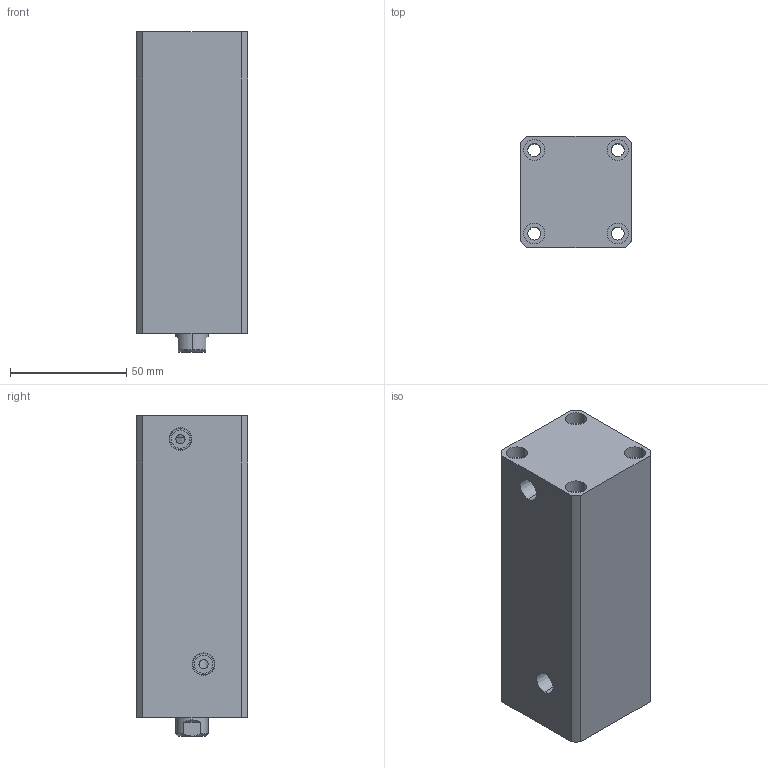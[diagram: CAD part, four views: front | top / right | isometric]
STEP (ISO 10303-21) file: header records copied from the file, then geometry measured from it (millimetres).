
FILE_DESCRIPTION (( 'STEP AP214' ), '1' );
FILE_NAME ('chtb-sd25x85n_asm.STEP', '2018-05-22T12:45:54', ( 'Windows' ), ( 'Microsoft' ), 'SwSTEP 2.0', 'SolidWorks 2015', '' );
FILE_SCHEMA (( 'AUTOMOTIVE_DESIGN' ));
Length unit declared in the file: millimetre
Products named in the file (4): CHTB-SD25X85NHSG; CHTB-SD25X85NBT; CHTB-25QG; chtb-sd25x85n_asm
Assembly tree (3 placements, depth 2):
  chtb-sd25x85n_asm
    CHTB-25QG
    CHTB-SD25X85NBT
    CHTB-SD25X85NHSG
Bounding box: 48 x 48 x 138 mm (x, y, z)
Volume: 251807 mm3; surface area: 61905.4 mm2
Topology: 3 solids, 3 shells, 144 faces, 377 edges, 257 vertices
Faces by surface type: cylinder 85, plane 36, cone 13, bspline 10
Entity records: 7940 total; most frequent: CARTESIAN_POINT 4299, ORIENTED_EDGE 742, DIRECTION 671, EDGE_CURVE 371, AXIS2_PLACEMENT_3D 278, VERTEX_POINT 257, EDGE_LOOP 182, FACE_OUTER_BOUND 144
